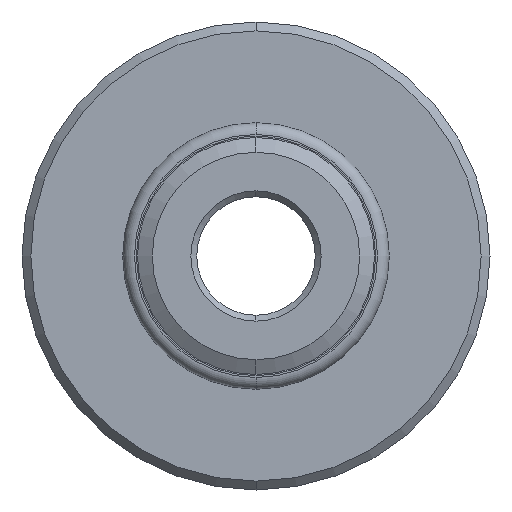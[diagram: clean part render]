
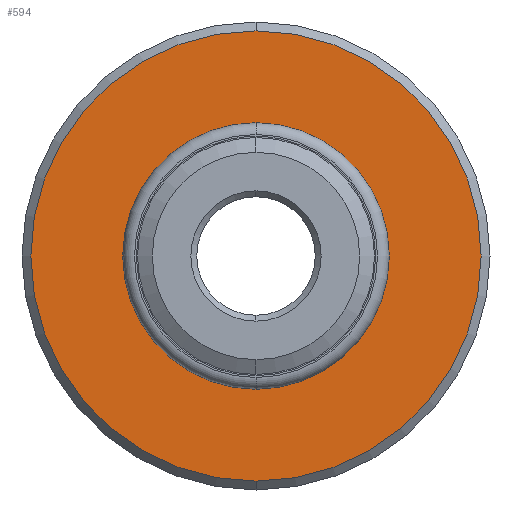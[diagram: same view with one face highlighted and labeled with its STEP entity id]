
A CAD part, left-side view. The second image highlights one B-rep face of the part: STEP entity #594.
In plain terms, the highlighted planar face has unit normal (-1, 0, 0).
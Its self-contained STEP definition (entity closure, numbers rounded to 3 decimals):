
#37=CARTESIAN_POINT('',(4.311,0.,0.));
#38=DIRECTION('',(-1.,0.,0.));
#39=DIRECTION('',(0.,0.,-1.));
#40=AXIS2_PLACEMENT_3D('',#37,#38,#39);
#42=CARTESIAN_POINT('',(4.311,0.,0.));
#43=DIRECTION('',(1.,0.,0.));
#44=DIRECTION('',(0.,0.,-1.));
#45=AXIS2_PLACEMENT_3D('',#42,#43,#44);
#47=CARTESIAN_POINT('',(4.311,0.,0.));
#48=DIRECTION('',(1.,0.,0.));
#49=DIRECTION('',(0.,0.,-1.));
#50=AXIS2_PLACEMENT_3D('',#47,#48,#49);
#60=CARTESIAN_POINT('',(4.311,0.,0.));
#61=DIRECTION('',(-1.,0.,0.));
#62=DIRECTION('',(0.,0.,-1.));
#63=AXIS2_PLACEMENT_3D('',#60,#61,#62);
#423=CARTESIAN_POINT('',(4.311,0.,-3.8));
#424=VERTEX_POINT('',#423);
#425=CARTESIAN_POINT('',(4.311,0.,-2.25));
#427=VERTEX_POINT('',#425);
#455=CARTESIAN_POINT('',(4.311,0.,3.8));
#456=VERTEX_POINT('',#455);
#457=CARTESIAN_POINT('',(4.311,0.,2.25));
#459=VERTEX_POINT('',#457);
#579=CARTESIAN_POINT('',(4.311,0.,0.));
#580=DIRECTION('',(1.,0.,0.));
#581=DIRECTION('',(0.,0.,1.));
#582=AXIS2_PLACEMENT_3D('',#579,#580,#581);
#583=PLANE('',#582);
#584=ORIENTED_EDGE('',*,*,#558,.F.);
#585=ORIENTED_EDGE('',*,*,#574,.T.);
#586=EDGE_LOOP('',(#584,#585));
#587=FACE_OUTER_BOUND('',#586,.F.);
#589=ORIENTED_EDGE('',*,*,#588,.F.);
#591=ORIENTED_EDGE('',*,*,#590,.T.);
#592=EDGE_LOOP('',(#589,#591));
#593=FACE_BOUND('',#592,.F.);
#594=ADVANCED_FACE('',(#587,#593),#583,.F.);
#41=CIRCLE('',#40,3.8);
#46=CIRCLE('',#45,3.8);
#51=CIRCLE('',#50,2.25);
#64=CIRCLE('',#63,2.25);
#558=EDGE_CURVE('',#424,#456,#41,.T.);
#574=EDGE_CURVE('',#424,#456,#46,.T.);
#588=EDGE_CURVE('',#427,#459,#51,.T.);
#590=EDGE_CURVE('',#427,#459,#64,.T.);
